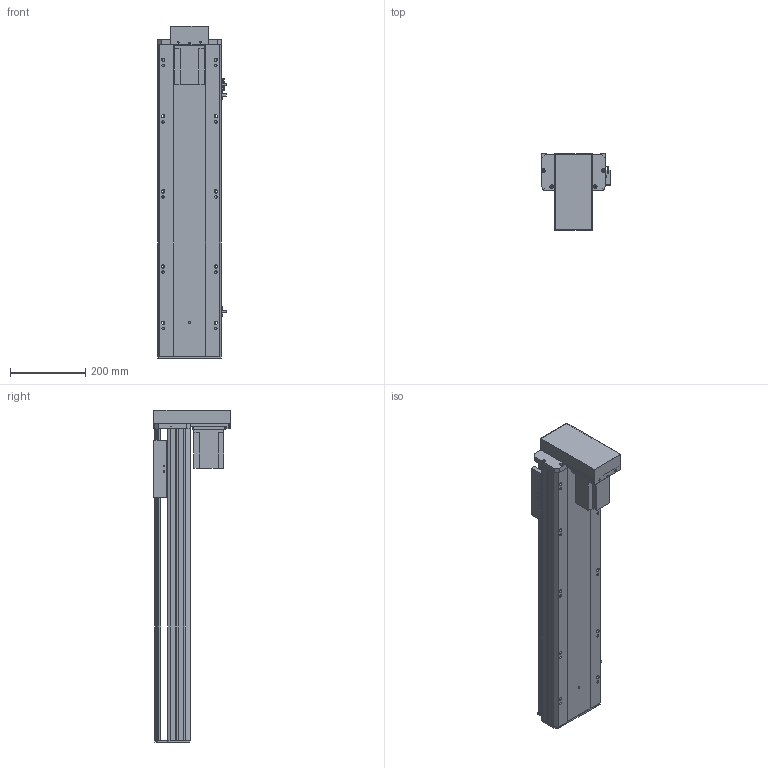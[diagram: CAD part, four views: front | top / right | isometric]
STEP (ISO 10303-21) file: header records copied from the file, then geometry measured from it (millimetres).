
FILE_DESCRIPTION (( 'STEP AP203' ), '1' );
FILE_NAME ('Y170-D10-S600-BM-P750W.STEP', '2020-01-22T03:00:35', ( '微软用户' ), ( '微软中国' ), 'SwSTEP 2.0', 'SolidWorks 2017', '' );
FILE_SCHEMA (( 'CONFIG_CONTROL_DESIGN' ));
Length unit declared in the file: millimetre
Products named in the file (12): YD-Y100-135-新外置传感挡片(通用）; 170--掛极-BR; Y100-135俋离換覜ん; 侂狟750W; Y170-D10-S600-BM-P750W; EGH20賑輸_蕼偞; Y雄赽釱-耜蚾; Y170-陔遴奻裔-BR; 170-BM耜蚾蟀諉啣; Y170-BM--P750W楊擘啣; -BM俋袗; Y170耜裔--準---
Assembly tree (14 placements, depth 2):
  Y170-D10-S600-BM-P750W
    Y170耜裔--準---
    170--掛极-BR
    侂狟750W
    EGH20賑輸_蕼偞  x2
    Y雄赽釱-耜蚾
    Y170-陔遴奻裔-BR
    170-BM耜蚾蟀諉啣
    Y170-BM--P750W楊擘啣
    -BM俋袗
    YD-Y100-135-新外置传感挡片(通用）
    Y100-135俋离換覜ん  x3
Bounding box: 183.5 x 203.5 x 883.5 mm (x, y, z)
Volume: 4569380.4 mm3; surface area: 1528372.9 mm2
Topology: 14 solids, 14 shells, 894 faces, 2508 edges, 1654 vertices
Faces by surface type: cylinder 442, plane 436, cone 16
Entity records: 28106 total; most frequent: CARTESIAN_POINT 4919, DIRECTION 4664, ORIENTED_EDGE 4512, EDGE_CURVE 2256, AXIS2_PLACEMENT_3D 1651, VERTEX_POINT 1498, LINE 1362, VECTOR 1362
